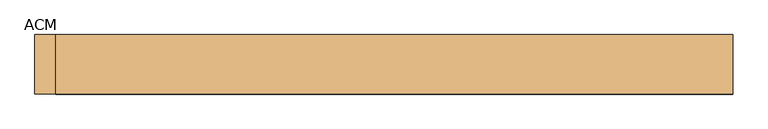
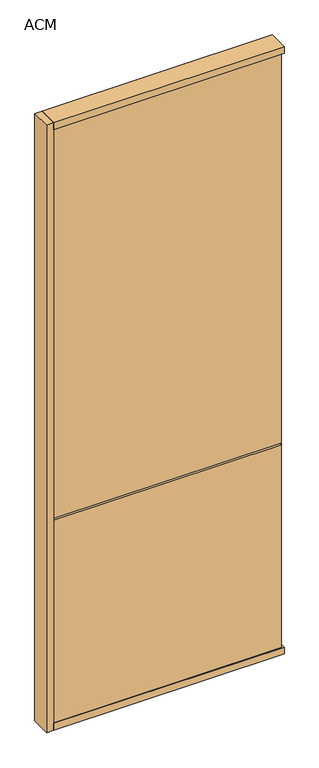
"""IFC4 building model written with IfcOpenShell, lengths in millimetres: door geometry, Mobiliário_Mobiliário de Escritório_Painel Cego - ACM (Inicial e Final)_Marelli : ACM."""

from ifc_helpers import new_model, si_unit, frame, origin, origin_with_axes, place, context, project, spatial, polyline, outline, extrude, source, transform, mapped, element, save


def acm_d2df9af4(model_context):
    return source(origin(), model_context, "Body", "SweptSolid", [
        extrude(outline(polyline([(500.0, -42.5), (-470.0, -42.5), (-470.0, 42.5), (500.0, 42.5), (500.0, -42.5)])), origin_with_axes(), (0.0, 0.0, 1.0), 30.0),
        extrude(outline(polyline([(490.0, -39.5), (-470.0, -39.5), (-470.0, -21.5), (490.0, -21.5), (490.0, -39.5)])), frame((0.0, 0.0, 30.0), z_axis=(0.0, 0.0, 1.0), x_axis=(1.0, 0.0, 0.0)), (0.0, 0.0, 1.0), 900.0),
        extrude(outline(polyline([(490.0, -21.5), (-470.0, -21.5), (-470.0, 21.5), (490.0, 21.5), (490.0, -21.5)])), frame((0.0, 0.0, 913.5), z_axis=(0.0, 0.0, 1.0), x_axis=(1.0, 0.0, 0.0)), (0.0, 0.0, 1.0), 43.0),
        extrude(outline(polyline([(490.0, 39.5), (490.0, 21.5), (-470.0, 21.5), (-470.0, 39.5), (490.0, 39.5)])), frame((0.0, 0.0, 30.0), z_axis=(0.0, 0.0, 1.0), x_axis=(1.0, 0.0, 0.0)), (0.0, 0.0, 1.0), 900.0),
        extrude(outline(polyline([(500.0, -42.5), (-470.0, -42.5), (-470.0, 42.5), (500.0, 42.5), (500.0, -42.5)])), frame((0.0, 0.0, 2670.0), z_axis=(0.0, 0.0, 1.0), x_axis=(1.0, 0.0, 0.0)), (0.0, 0.0, 1.0), 30.0),
        extrude(outline(polyline([(-500.0, 42.5), (-470.0, 42.5), (-470.0, -42.5), (-500.0, -42.5), (-500.0, 42.5)])), origin_with_axes(), (0.0, 0.0, 1.0), 2700.0),
        extrude(outline(polyline([(500.0, 21.5), (500.0, -21.5), (490.0, -21.5), (490.0, 21.5), (500.0, 21.5)])), frame((0.0, 0.0, 30.0), z_axis=(0.0, 0.0, 1.0), x_axis=(1.0, 0.0, 0.0)), (0.0, 0.0, 1.0), 2640.0),
        extrude(outline(polyline([(490.0, -39.5), (-470.0, -39.5), (-470.0, -21.5), (490.0, -21.5), (490.0, -39.5)])), frame((0.0, 0.0, 940.0), z_axis=(0.0, 0.0, 1.0), x_axis=(1.0, 0.0, 0.0)), (0.0, 0.0, 1.0), 1730.0),
        extrude(outline(polyline([(490.0, 39.5), (490.0, 21.5), (-470.0, 21.5), (-470.0, 39.5), (490.0, 39.5)])), frame((0.0, 0.0, 940.0), z_axis=(0.0, 0.0, 1.0), x_axis=(1.0, 0.0, 0.0)), (0.0, 0.0, 1.0), 1730.0),
    ])


if __name__ == "__main__":
    model = new_model("IFC4")
    model_context = context("Model", 3, world=origin())
    ifc_project = project(units=[si_unit("LENGTHUNIT", "METRE", prefix="MILLI")], contexts=[model_context])
    site = spatial("IfcSite", under=ifc_project)
    building = spatial("IfcBuilding", under=site)
    placement = place(None, origin())
    acm_shape = acm_d2df9af4(model_context)
    element("IfcDoor", 1, ObjectType="Mobiliário_Mobiliário de Escritório_Painel Cego - ACM (Inicial e Final)_Marelli : ACM", at=placement, inside=building, context=model_context, shape_type="MappedRepresentation", body=[
        mapped(acm_shape, transform((0.0, 0.0, 0.0), x_axis=(1.0, 0.0, 0.0), y_axis=(0.0, 1.0, 0.0), z_axis=(0.0, 0.0, 1.0))),
    ])
    save(model, "model.ifc")
